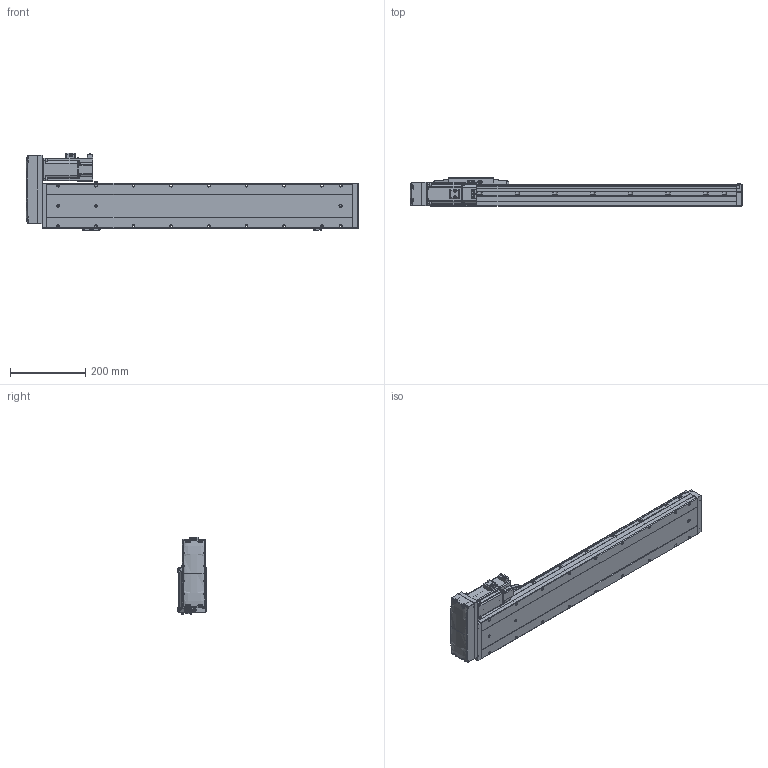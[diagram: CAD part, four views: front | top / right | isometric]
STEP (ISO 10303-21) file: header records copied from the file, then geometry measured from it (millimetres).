
FILE_DESCRIPTION (( 'STEP AP214' ), '1' );
FILE_NAME ('CTH12-L10-S600-BL-C40（简）.STEP', '2023-02-06T04:57:42', ( '' ), ( '' ), 'SwSTEP 2.0', 'SolidWorks 2018', '' );
FILE_SCHEMA (( 'AUTOMOTIVE_DESIGN' ));
Length unit declared in the file: millimetre
Products named in the file (24): CTH12賑怢ㄗ潠ㄘ; CTH嫖萇羲壽假蚾啣; 嫖萇羲壽郪磁2; 蚐郲; CTH12賑怢郪磁; CTH12-L10-S600-BL-C40（简）; CTH400W垫板（3个厚）; CTH12耜蚾裔; CTH12; 嫖萇羲壽郪磁1; CTH12侧装连接板（标准）简; CTH12-BL_body_4; CTH12底座-L811简（600行程）; CTH400W假蚾啣; 内六角圆柱头螺钉M3; 400W萇儂; M5蹟隊; 湮賑怢  裔赽-1(CTH12)賑怢; hex nuts, style 1-grades ab gb_GB_FASTENER_NUT_SNAB1 M3-N; 内六角圆柱头螺钉M3-1; PM-Y45; CTH12覜茼え; 内六角圆柱头螺钉M3-2; CTH12_body_3
Assembly tree (44 placements, depth 4):
  CTH12-L10-S600-BL-C40（简）
    CTH12底座-L811简（600行程）
    蚐郲  x2
    CTH12_body_3
    CTH12-BL_body_4
    CTH12侧装连接板（标准）简
    CTH12耜蚾裔
    CTH12賑怢郪磁
      CTH12
        湮賑怢  裔赽-1(CTH12)賑怢
        CTH12賑怢ㄗ潠ㄘ
    CTH12覜茼え
    CTH400W垫板（3个厚）
    400W萇儂
    内六角圆柱头螺钉M3  x6
    M5蹟隊  x4
    嫖萇羲壽郪磁1
      CTH嫖萇羲壽假蚾啣
      PM-Y45
      内六角圆柱头螺钉M3-2  x2
      内六角圆柱头螺钉M3-1  x2
      hex nuts, style 1-grades ab gb_GB_FASTENER_NUT_SNAB1 M3-N  x2
    嫖萇羲壽郪磁2  x2
      CTH嫖萇羲壽假蚾啣
      PM-Y45
      内六角圆柱头螺钉M3-1
      内六角圆柱头螺钉M3-2
      hex nuts, style 1-grades ab gb_GB_FASTENER_NUT_SNAB1 M3-N
    CTH400W假蚾啣
Bounding box: 881.5 x 76 x 205.26 mm (x, y, z)
Volume: 6008196.2 mm3; surface area: 655136.4 mm2
Topology: 47 solids, 48 shells, 3227 faces, 8052 edges, 5047 vertices
Faces by surface type: plane 1562, cylinder 926, cone 427, bspline 184, torus 124, sphere 4
Entity records: 106226 total; most frequent: CARTESIAN_POINT 39538, ORIENTED_EDGE 13206, DIRECTION 12485, EDGE_CURVE 6603, AXIS2_PLACEMENT_3D 4376, VERTEX_POINT 4151, VECTOR 3733, LINE 3733
